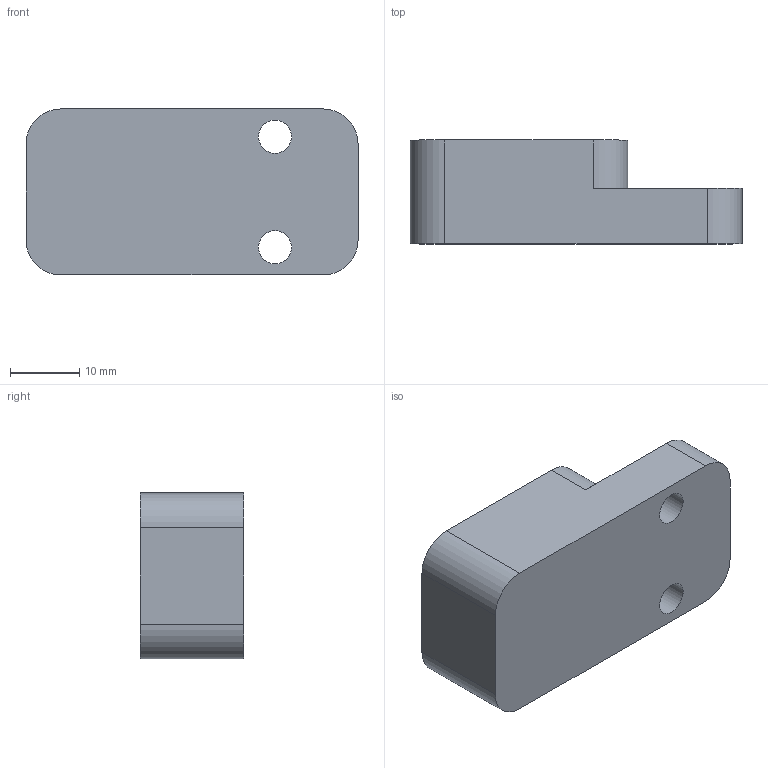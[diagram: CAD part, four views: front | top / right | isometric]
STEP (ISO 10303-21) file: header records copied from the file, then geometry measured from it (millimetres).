
FILE_DESCRIPTION(/* description */ (''),/* implementation_level */ '2;1');
FILE_NAME(/* name */ 'M5stack_ASR_unit.stp',/* time_stamp */ '2025-03-06T12:36:01+01:00',/* author */ ('Ryzen5700u'),/* organization */ (''),/* preprocessor_version */ 'ST-DEVELOPER v20',/* originating_system */ 'Autodesk Inventor 2025',/* authorisation */ '');
FILE_SCHEMA (('AUTOMOTIVE_DESIGN { 1 0 10303 214 3 1 1 }'));
Length unit declared in the file: millimetre
Products named in the file (1): M5stack_ASR_unit
Bounding box: 48 x 15 x 24 mm (x, y, z)
Volume: 13597 mm3; surface area: 4530.2 mm2
Topology: 1 solids, 1 shells, 383 faces, 945 edges, 631 vertices
Faces by surface type: plane 230, cylinder 130, bspline 23
Full cylindrical faces by diameter (mm): 4.8 x2
Entity records: 11551 total; most frequent: CARTESIAN_POINT 2259, ORIENTED_EDGE 1890, DIRECTION 1881, EDGE_CURVE 945, LINE 639, VECTOR 639, VERTEX_POINT 630, AXIS2_PLACEMENT_3D 621
